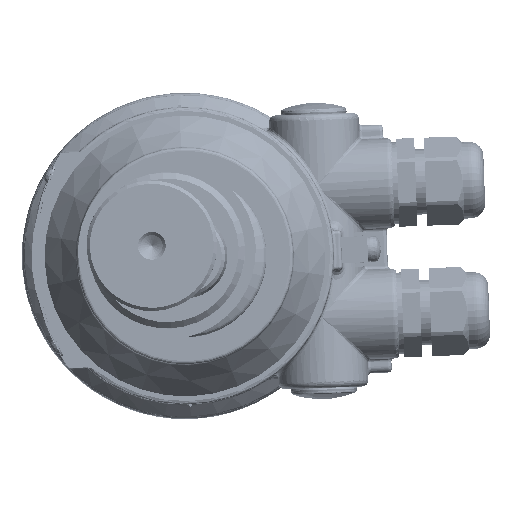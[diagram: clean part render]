
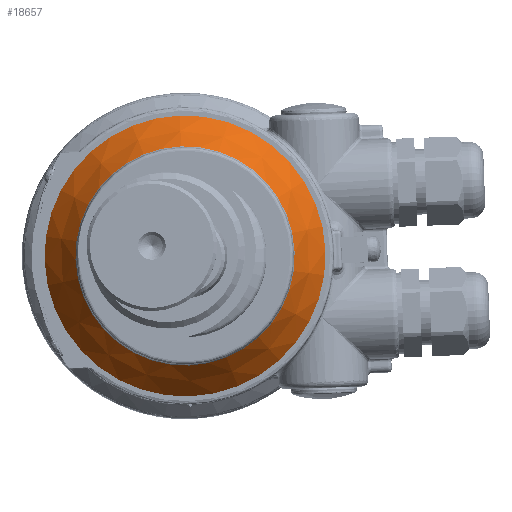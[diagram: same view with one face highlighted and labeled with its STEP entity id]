
A CAD part, front view. The second image highlights one B-rep face of the part: STEP entity #18657.
In plain terms, the highlighted conical face has half-angle 35 degrees and reference radius 38.151 mm.
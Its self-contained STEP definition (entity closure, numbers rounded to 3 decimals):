
#678=CONICAL_SURFACE('',#20154,38.151,35.);
#1342=FACE_BOUND('',#4343,.T.);
#3037=FACE_OUTER_BOUND('',#4342,.T.);
#4342=EDGE_LOOP('',(#14024));
#4343=EDGE_LOOP('',(#14025));
#7246=CIRCLE('',#20151,43.053);
#7247=CIRCLE('',#20153,33.612);
#8614=VERTEX_POINT('',#36887);
#8615=VERTEX_POINT('',#36890);
#10605=EDGE_CURVE('',#8614,#8614,#7246,.T.);
#10606=EDGE_CURVE('',#8615,#8615,#7247,.T.);
#14024=ORIENTED_EDGE('',*,*,#10605,.F.);
#14025=ORIENTED_EDGE('',*,*,#10606,.F.);
#18657=ADVANCED_FACE('',(#3037,#1342),#678,.T.);
#20151=AXIS2_PLACEMENT_3D('',#36888,#23067,#23068);
#20153=AXIS2_PLACEMENT_3D('',#36891,#23071,#23072);
#20154=AXIS2_PLACEMENT_3D('',#36892,#23073,#23074);
#23067=DIRECTION('center_axis',(0.,1.,0.));
#23068=DIRECTION('ref_axis',(1.,0.,0.));
#23071=DIRECTION('center_axis',(0.,-1.,0.));
#23072=DIRECTION('ref_axis',(1.,0.,0.));
#23073=DIRECTION('center_axis',(0.,1.,0.));
#23074=DIRECTION('ref_axis',(-1.,0.,0.));
#36887=CARTESIAN_POINT('',(-43.053,18.5,0.));
#36888=CARTESIAN_POINT('Origin',(0.,18.5,0.));
#36890=CARTESIAN_POINT('',(-33.612,5.017,0.));
#36891=CARTESIAN_POINT('Origin',(0.,5.017,0.));
#36892=CARTESIAN_POINT('Origin',(0.,11.5,0.));
